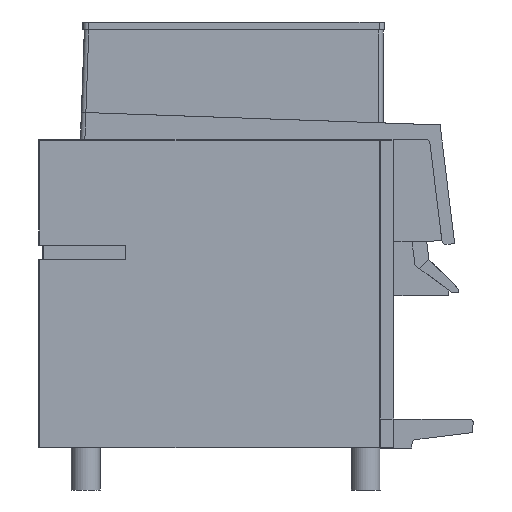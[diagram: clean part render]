
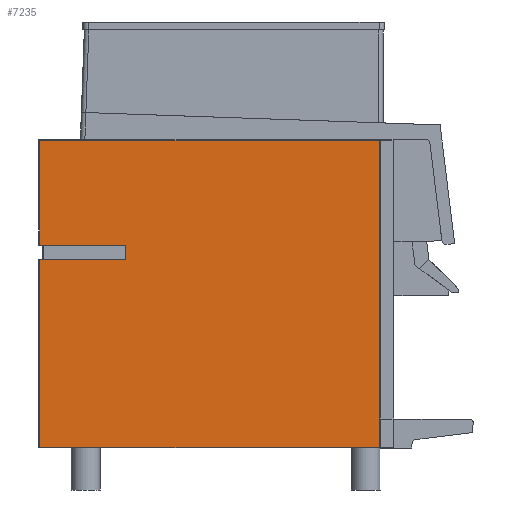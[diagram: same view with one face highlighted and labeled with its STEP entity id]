
A CAD part, left-side view. The second image highlights one B-rep face of the part: STEP entity #7235.
In plain terms, the highlighted planar face has unit normal (-1, 0, 0).
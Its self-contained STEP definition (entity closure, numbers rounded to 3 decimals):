
#767=ORIENTED_EDGE('',*,*,#2157,.F.);
#768=ORIENTED_EDGE('',*,*,#2235,.T.);
#769=ORIENTED_EDGE('',*,*,#2236,.T.);
#770=ORIENTED_EDGE('',*,*,#2237,.T.);
#771=ORIENTED_EDGE('',*,*,#2238,.F.);
#772=ORIENTED_EDGE('',*,*,#2239,.F.);
#773=ORIENTED_EDGE('',*,*,#2240,.F.);
#774=ORIENTED_EDGE('',*,*,#2241,.T.);
#775=ORIENTED_EDGE('',*,*,#2242,.T.);
#776=ORIENTED_EDGE('',*,*,#2243,.T.);
#2157=EDGE_CURVE('',#2885,#2886,#3359,.T.);
#2235=EDGE_CURVE('',#2885,#2934,#3422,.T.);
#2236=EDGE_CURVE('',#2934,#2935,#3423,.F.);
#2237=EDGE_CURVE('',#2935,#2936,#3424,.F.);
#2238=EDGE_CURVE('',#2937,#2936,#3425,.T.);
#2239=EDGE_CURVE('',#2938,#2937,#3426,.T.);
#2240=EDGE_CURVE('',#2939,#2938,#3427,.T.);
#2241=EDGE_CURVE('',#2939,#2940,#3428,.T.);
#2242=EDGE_CURVE('',#2940,#2941,#3429,.T.);
#2243=EDGE_CURVE('',#2941,#2886,#3430,.F.);
#2885=VERTEX_POINT('',#10051);
#2886=VERTEX_POINT('',#10053);
#2934=VERTEX_POINT('',#10200);
#2935=VERTEX_POINT('',#10202);
#2936=VERTEX_POINT('',#10204);
#2937=VERTEX_POINT('',#10206);
#2938=VERTEX_POINT('',#10208);
#2939=VERTEX_POINT('',#10210);
#2940=VERTEX_POINT('',#10212);
#2941=VERTEX_POINT('',#10214);
#3359=LINE('',#10052,#3970);
#3422=LINE('',#10199,#4033);
#3423=LINE('',#10201,#4034);
#3424=LINE('',#10203,#4035);
#3425=LINE('',#10205,#4036);
#3426=LINE('',#10207,#4037);
#3427=LINE('',#10209,#4038);
#3428=LINE('',#10211,#4039);
#3429=LINE('',#10213,#4040);
#3430=LINE('',#10215,#4041);
#3970=VECTOR('',#8395,1000.);
#4033=VECTOR('',#8530,1000.);
#4034=VECTOR('',#8531,1000.);
#4035=VECTOR('',#8532,1000.);
#4036=VECTOR('',#8533,1000.);
#4037=VECTOR('',#8534,1000.);
#4038=VECTOR('',#8535,1000.);
#4039=VECTOR('',#8536,1000.);
#4040=VECTOR('',#8537,1000.);
#4041=VECTOR('',#8538,1000.);
#4419=EDGE_LOOP('',(#767,#768,#769,#770,#771,#772,#773,#774,#775,#776));
#4724=FACE_BOUND('',#4419,.T.);
#5007=PLANE('',#7616);
#7235=ADVANCED_FACE('',(#4724),#5007,.F.);
#7616=AXIS2_PLACEMENT_3D('',#10198,#8528,#8529);
#8395=DIRECTION('',(0.,1.,0.));
#8528=DIRECTION('',(1.,0.,0.));
#8529=DIRECTION('',(0.,1.,0.));
#8530=DIRECTION('',(0.,0.,1.));
#8531=DIRECTION('',(0.,-1.,0.));
#8532=DIRECTION('',(0.,0.,1.));
#8533=DIRECTION('',(0.,1.,0.));
#8534=DIRECTION('',(0.,1.,0.));
#8535=DIRECTION('',(0.,0.,1.));
#8536=DIRECTION('',(0.,1.,0.));
#8537=DIRECTION('',(0.,1.,0.));
#8538=DIRECTION('',(0.,0.,1.));
#10051=CARTESIAN_POINT('',(-284.,-470.,0.));
#10052=CARTESIAN_POINT('',(-284.,-490.,0.));
#10053=CARTESIAN_POINT('',(-284.,-1.2,0.));
#10198=CARTESIAN_POINT('',(-284.,0.,0.));
#10199=CARTESIAN_POINT('',(-284.,-470.,420.5));
#10200=CARTESIAN_POINT('',(-284.,-470.,424.8));
#10201=CARTESIAN_POINT('',(-284.,0.,424.8));
#10202=CARTESIAN_POINT('',(-284.,-1.2,424.8));
#10203=CARTESIAN_POINT('',(-284.,-1.2,0.));
#10204=CARTESIAN_POINT('',(-284.,-1.2,280.));
#10205=CARTESIAN_POINT('',(-284.,-5.,280.));
#10206=CARTESIAN_POINT('',(-284.,-5.133,280.));
#10207=CARTESIAN_POINT('',(-284.,-120.,280.));
#10208=CARTESIAN_POINT('',(-284.,-120.,280.));
#10209=CARTESIAN_POINT('',(-284.,-120.,260.));
#10210=CARTESIAN_POINT('',(-284.,-120.,260.));
#10211=CARTESIAN_POINT('',(-284.,-120.,260.));
#10212=CARTESIAN_POINT('',(-284.,-5.133,260.));
#10213=CARTESIAN_POINT('',(-284.,-5.,260.));
#10214=CARTESIAN_POINT('',(-284.,-1.2,260.));
#10215=CARTESIAN_POINT('',(-284.,-1.2,0.));
